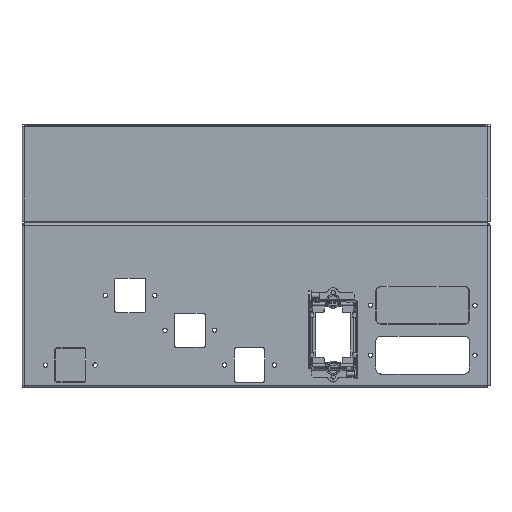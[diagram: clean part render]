
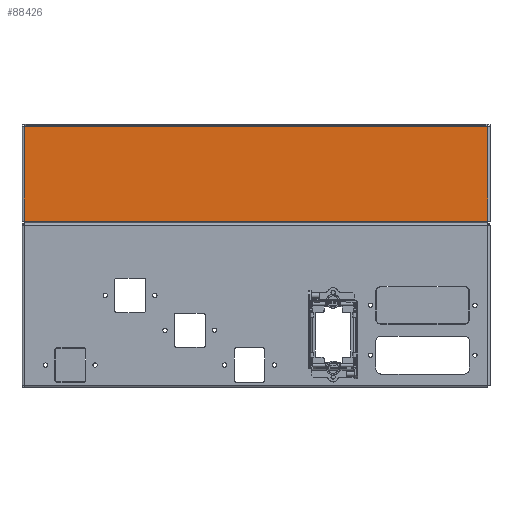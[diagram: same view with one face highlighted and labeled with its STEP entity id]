
A CAD part, top view. The second image highlights one B-rep face of the part: STEP entity #88426.
In plain terms, the highlighted planar face has unit normal (0, 0, 1).
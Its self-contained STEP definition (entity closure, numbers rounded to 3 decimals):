
#87761=CARTESIAN_POINT(' ',(-232.9,47.5,0.));
#87766=DIRECTION(' ',(0.,-1.,0.));
#87771=VECTOR(' ',#87766,1.);
#87776=LINE('',#87761,#87771);
#87781=CARTESIAN_POINT(' ',(-232.9,47.5,0.));
#87782=VERTEX_POINT(' ',#87781);
#87786=CARTESIAN_POINT(' ',(-232.9,-47.5,0.));
#87787=VERTEX_POINT(' ',#87786);
#87791=EDGE_CURVE(' ',#87782,#87787,#87776,.T.);
#88286=DIRECTION(' ',(0.,-0.,1.));
#88291=CARTESIAN_POINT(' ',(-232.9,-47.5,0.));
#88296=DIRECTION(' ',(1.,0.,-0.));
#88301=AXIS2_PLACEMENT_3D(' ',#88291,#88286,#88296);
#88306=PLANE('NONE',#88301);
#88311=ORIENTED_EDGE(' ',*,*,#87791,.T.);
#88316=CARTESIAN_POINT(' ',(-232.9,-47.5,0.));
#88321=DIRECTION(' ',(1.,0.,0.));
#88326=VECTOR(' ',#88321,1.);
#88331=LINE('',#88316,#88326);
#88336=CARTESIAN_POINT(' ',(232.9,-47.5,0.));
#88337=VERTEX_POINT(' ',#88336);
#88341=EDGE_CURVE(' ',#87787,#88337,#88331,.T.);
#88346=ORIENTED_EDGE(' ',*,*,#88341,.T.);
#88351=CARTESIAN_POINT(' ',(232.9,-47.5,0.));
#88356=DIRECTION(' ',(0.,1.,0.));
#88361=VECTOR(' ',#88356,1.);
#88366=LINE('',#88351,#88361);
#88371=CARTESIAN_POINT(' ',(232.9,47.5,0.));
#88372=VERTEX_POINT(' ',#88371);
#88376=EDGE_CURVE(' ',#88337,#88372,#88366,.T.);
#88381=ORIENTED_EDGE(' ',*,*,#88376,.T.);
#88386=CARTESIAN_POINT(' ',(232.9,47.5,0.));
#88391=DIRECTION(' ',(-1.,0.,0.));
#88396=VECTOR(' ',#88391,1.);
#88401=LINE('',#88386,#88396);
#88406=EDGE_CURVE(' ',#88372,#87782,#88401,.T.);
#88411=ORIENTED_EDGE(' ',*,*,#88406,.T.);
#88416=EDGE_LOOP(' ',(#88311,#88346,#88381,#88411));
#88421=FACE_OUTER_BOUND(' ',#88416,.T.);
#88426=ADVANCED_FACE('NONE',(#88421),#88306,.T.);
